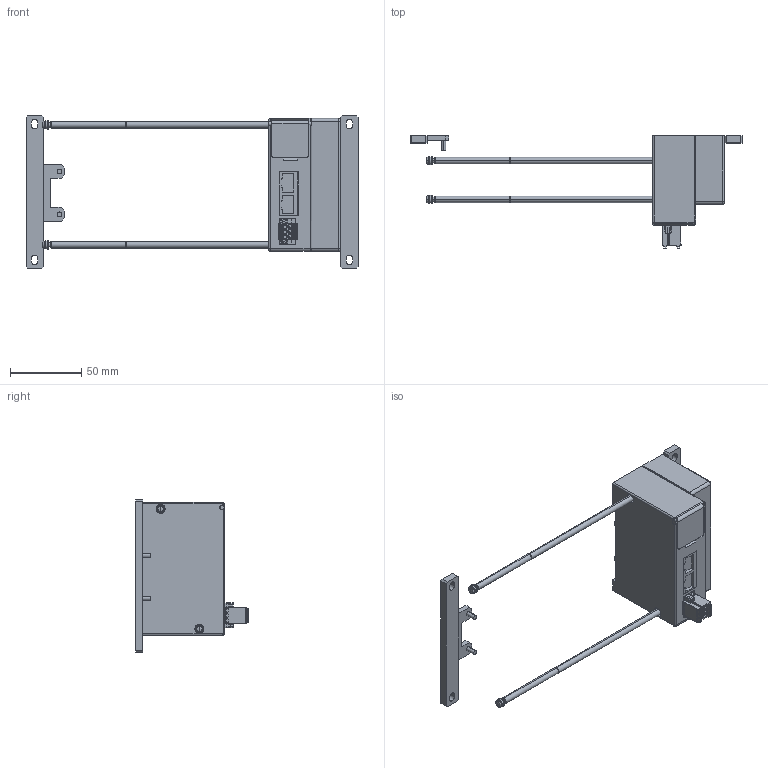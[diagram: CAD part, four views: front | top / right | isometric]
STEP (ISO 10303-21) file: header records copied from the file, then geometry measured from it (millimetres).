
FILE_DESCRIPTION( (''), '2;1');
FILE_NAME ('YS8EM3-7.stp','2022-12-01T14:45:30',(''),(''),'spGate 12.6.6','','');
FILE_SCHEMA (('AUTOMOTIVE_DESIGN'));
Length unit declared in the file: millimetre
Products named in the file (3): Assembly; YS8EM3-7-prt0; YS8EM3-7-prt1
Assembly tree (3 placements, depth 2):
  Assembly
    YS8EM3-7-prt0  x2
    YS8EM3-7-prt1
Bounding box: 232.5 x 78.8 x 107 mm (x, y, z)
Volume: 273592.5 mm3; surface area: 45675.6 mm2
Topology: 3 solids, 3 shells, 837 faces, 2151 edges, 1371 vertices
Faces by surface type: plane 501, cylinder 246, bspline 78, sphere 12
Entity records: 40461 total; most frequent: CARTESIAN_POINT 5625, ORIENTED_EDGE 3998, DIRECTION 3749, COLOUR_RGB 2780, PRESENTATION_STYLE_ASSIGNMENT 2780, STYLED_ITEM 2780, EDGE_CURVE 1999, DRAUGHTING_PRE_DEFINED_CURVE_FONT 1999
